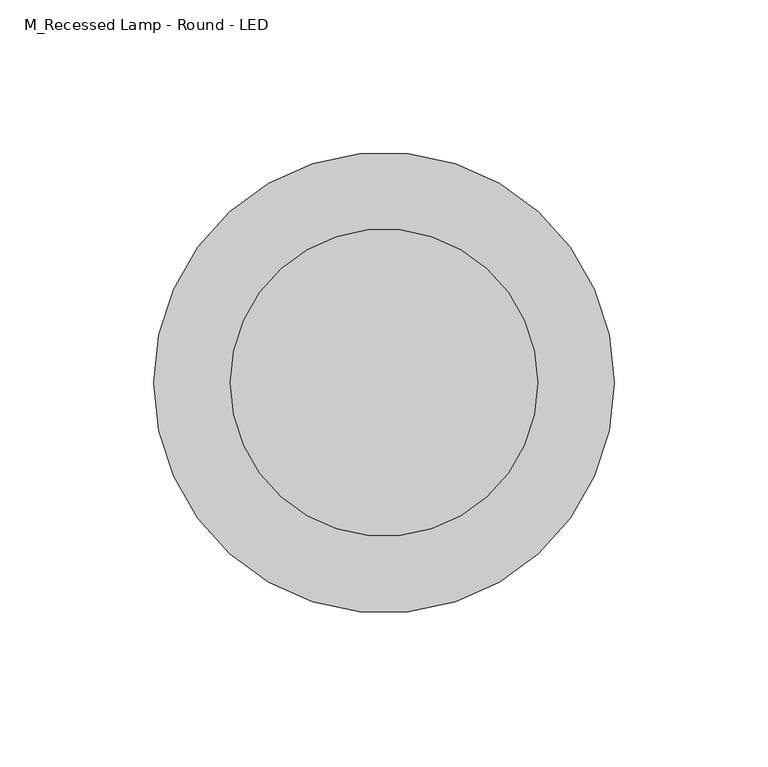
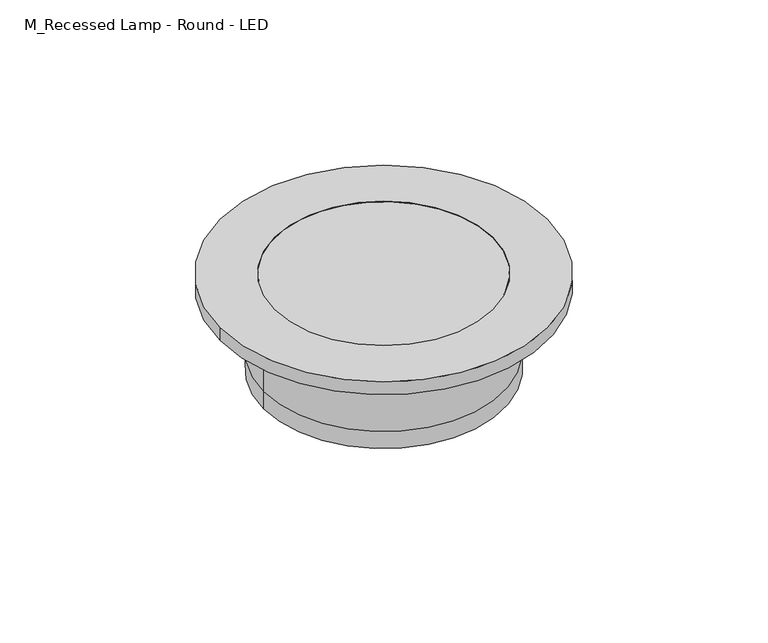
"""IFC4 building model written with IfcOpenShell, lengths in millimetres: light fixture geometry, M_Recessed Lamp - Round - LED : 100mm Trimless Downlight."""

from ifc_helpers import new_model, si_unit, point, frame, origin, origin_with_axes, origin_2d, place, context, project, spatial, polyline, circle_curve, trimmed, segment, composite_curve, outline, extrude, source, transform, mapped, element, save
from ifc_brep_helpers import plane_surface, cylinder_surface, revolved_surface, advanced_brep


def m_recessed_lamp_round_led_e6f06c98(model_context):
    return source(origin(), model_context, "Body", "SolidModel", [
        extrude(outline(composite_curve([segment(trimmed(circle_curve(origin_2d(), 75.0), [point((-75.0, 0.0))], [point((75.0, 0.0))], False, "CARTESIAN"), True, "CONTINUOUS"), segment(trimmed(circle_curve(origin_2d(), 75.0), [point((75.0, 0.0))], [point((-75.0, 0.0))], False, "CARTESIAN"), True, "CONTINUOUS")], self_intersect=False), holes=[composite_curve([segment(trimmed(circle_curve(origin_2d(), 50.0), [point((-50.0, 0.0))], [point((50.0, 0.0))], True, "CARTESIAN"), True, "CONTINUOUS"), segment(trimmed(circle_curve(origin_2d(), 50.0), [point((50.0, 0.0))], [point((-50.0, 0.0))], True, "CARTESIAN"), True, "CONTINUOUS")], self_intersect=False)]), origin_with_axes(), (0.0, 0.0, 1.0), 6.35),
        extrude(outline(composite_curve([segment(trimmed(circle_curve(origin_2d(), 50.0), [point((-50.0, 0.0))], [point((50.0, 0.0))], False, "CARTESIAN"), True, "CONTINUOUS"), segment(trimmed(circle_curve(origin_2d(), 50.0), [point((50.0, 0.0))], [point((-50.0, 0.0))], False, "CARTESIAN"), True, "CONTINUOUS")], self_intersect=False)), origin_with_axes(), (0.0, 0.0, 1.0), 6.35),
        advanced_brep(
        [(-50.0, 0.0, -31.75), (50.0, 0.0, -31.75), (-55.0, 0.0, -40.0), (55.0, 0.0, -40.0), (55.0, 0.0, -31.75), (-55.0, 0.0, -31.75), (-55.0, 0.0, 0.0), (55.0, 0.0, 0.0), (-50.0, 0.0, 0.0), (50.0, 0.0, 0.0)],
        [
            (0, 1, circle_curve(frame((0.0, 0.0, -31.75), z_axis=(0.0, 0.0, 1.0), x_axis=(1.0, 0.0, 0.0)), 50.0)),
            (1, 0, circle_curve(frame((0.0, 0.0, -31.75), z_axis=(0.0, 0.0, 1.0), x_axis=(1.0, 0.0, 0.0)), 50.0)),
            (2, 3, circle_curve(frame((0.0, 0.0, -40.0), z_axis=(0.0, 0.0, -1.0), x_axis=(1.0, 0.0, 0.0)), 55.0)),
            (3, 2, circle_curve(frame((0.0, 0.0, -40.0), z_axis=(0.0, 0.0, -1.0), x_axis=(1.0, 0.0, 0.0)), 55.0)),
            (3, 4),
            (4, 5, circle_curve(frame((0.0, 0.0, -31.75), z_axis=(0.0, 0.0, -1.0), x_axis=(1.0, 0.0, 0.0)), 55.0)),
            (5, 2),
            (5, 4, circle_curve(frame((0.0, 0.0, -31.75), z_axis=(0.0, 0.0, -1.0), x_axis=(1.0, 0.0, 0.0)), 55.0)),
            (6, 7, circle_curve(origin_with_axes(), 55.0)),
            (7, 6, circle_curve(origin_with_axes(), 55.0)),
            (8, 9, circle_curve(frame((0.0, 0.0, 0.0), z_axis=(0.0, 0.0, -1.0), x_axis=(1.0, 0.0, 0.0)), 50.0)),
            (9, 8, circle_curve(frame((0.0, 0.0, 0.0), z_axis=(0.0, 0.0, -1.0), x_axis=(1.0, 0.0, 0.0)), 50.0)),
            (9, 1),
            (0, 8),
            (6, 5),
            (4, 7),
        ],
        [
            plane_surface(frame((55.0, 0.0, -31.75), z_axis=(0.0, 0.0, 1.0), x_axis=(0.0, 1.0, 0.0))),
            plane_surface(frame((55.0, 0.0, -40.0), z_axis=(0.0, 0.0, -1.0), x_axis=(0.0, -1.0, 0.0))),
            cylinder_surface(frame((0.0, 0.0, -40.0), z_axis=(0.0, 0.0, 1.0), x_axis=(1.0, 0.0, 0.0)), 55.0),
            plane_surface(frame((50.0, 0.0, 0.0), z_axis=(0.0, 0.0, 1.0), x_axis=(0.0, -1.0, 0.0))),
            revolved_surface(polyline([(50.0, 0.0, -31.75), (50.0, 0.0, 0.0)]), (0.0, 0.0, -31.75), (0.0, 0.0, -1.0)),
            cylinder_surface(origin_with_axes(), 55.0),
        ],
        [
            (0, [[1, 2]]),
            (1, [[3, 4]]),
            (2, [[-4, 5, 6, 7]]),
            (2, [[-3, -7, 8, -5]]),
            (3, [[9, 10], [11, 12]]),
            (4, [[-12, 13, -1, 14]]),
            (4, [[-11, -14, -2, -13]]),
            (5, [[-9, 15, -6, 16]]),
            (5, [[-10, -16, -8, -15]]),
        ],
    ),
    ])


if __name__ == "__main__":
    model = new_model("IFC4")
    model_context = context("Model", 3, world=origin())
    ifc_project = project(units=[si_unit("LENGTHUNIT", "METRE", prefix="MILLI")], contexts=[model_context])
    site = spatial("IfcSite", under=ifc_project)
    building = spatial("IfcBuilding", under=site)
    placement = place(None, origin())
    m_recessed_lamp_round_led_shape = m_recessed_lamp_round_led_e6f06c98(model_context)
    element("IfcLightFixture", 1, ObjectType="M_Recessed Lamp - Round - LED : 100mm Trimless Downlight", at=placement, inside=building, context=model_context, shape_type="MappedRepresentation", body=[
        mapped(m_recessed_lamp_round_led_shape, transform((0.0, 0.0, 0.0), x_axis=(1.0, 0.0, 0.0), y_axis=(0.0, 1.0, 0.0), z_axis=(0.0, 0.0, 1.0))),
    ])
    save(model, "model.ifc")
